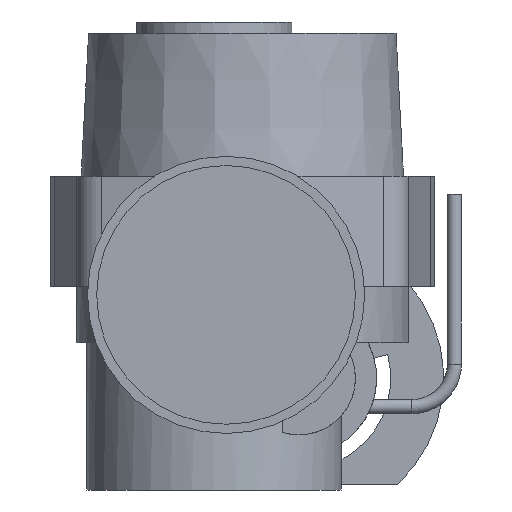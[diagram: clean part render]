
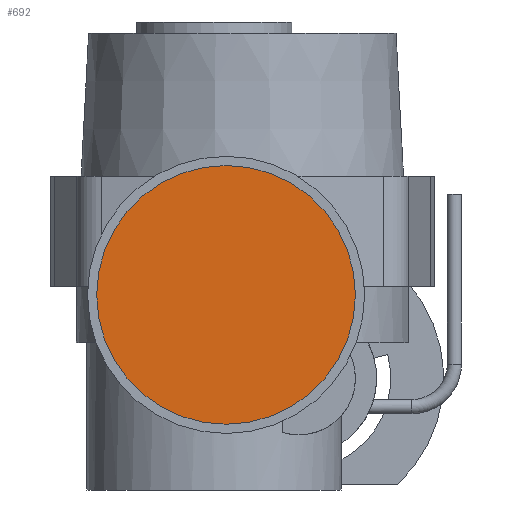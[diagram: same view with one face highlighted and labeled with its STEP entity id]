
A CAD part, front view. The second image highlights one B-rep face of the part: STEP entity #692.
In plain terms, the highlighted planar face has unit normal (0, -1, 0).
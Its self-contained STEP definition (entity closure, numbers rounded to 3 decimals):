
#692=ADVANCED_FACE('',(#1523),#1525,.T.);
#1523=FACE_BOUND('',#1524,.T.);
#1524=EDGE_LOOP('',(#2009));
#1525=PLANE('',#1526);
#1526=AXIS2_PLACEMENT_3D('',#1527,#1528,#1529);
#1527=CARTESIAN_POINT('',(-11.5,-265.,-6.));
#1528=DIRECTION('',(0.,-1.,0.));
#1529=DIRECTION('',(0.,0.,1.));
#2009=ORIENTED_EDGE('',*,*,#2263,.F.);
#2263=EDGE_CURVE('',#2556,#2556,#2557,.T.);
#2556=VERTEX_POINT('',#3936);
#2557=CIRCLE('',#3937,91.5);
#3936=CARTESIAN_POINT('',(-11.5,-265.,85.5));
#3937=AXIS2_PLACEMENT_3D('',#3938,#3939,#3940);
#3938=CARTESIAN_POINT('',(-11.5,-265.,-6.));
#3939=DIRECTION('',(-0.,1.,0.));
#3940=DIRECTION('',(0.,0.,1.));
